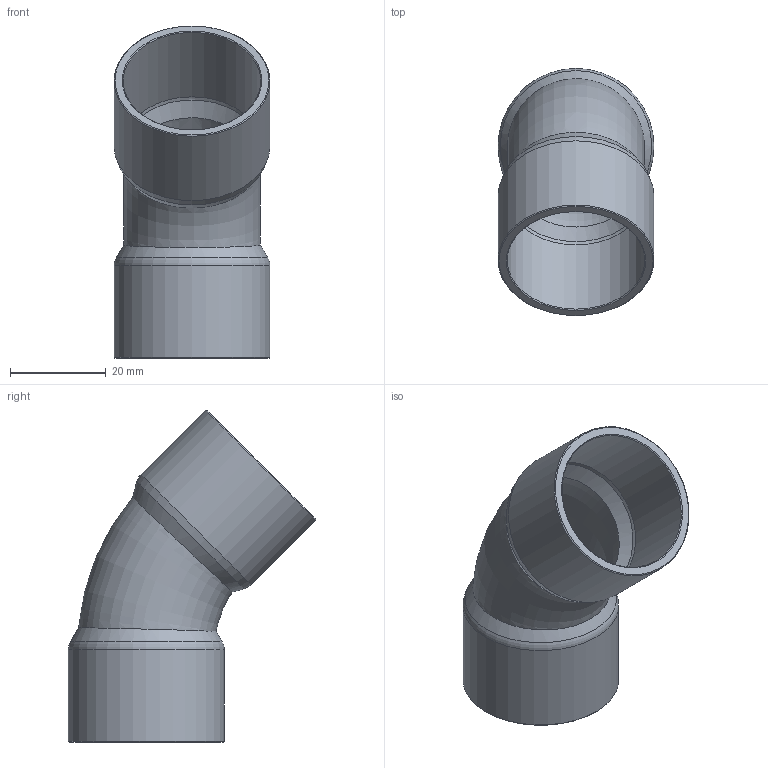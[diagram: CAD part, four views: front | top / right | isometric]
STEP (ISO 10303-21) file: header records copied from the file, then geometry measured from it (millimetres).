
FILE_DESCRIPTION((''),'2;1');
FILE_NAME('G:\SANHA-Ternat\Technik\Management\Bouwmaten + markeringen\z-maattekeningen 3D\29000s\29041118_3d.stp','2017-07-26T11:34:43',('vdvijverd'),(''),'Autodesk Inventor 2009','Autodesk Inventor 2009','');
FILE_SCHEMA(('AUTOMOTIVE_DESIGN { 1 0 10303 214 1 1 1 1 }'));
Length unit declared in the file: millimetre
Products named in the file (1): 29041118_3d
Bounding box: 32.52 x 51.6 x 69.24 mm (x, y, z)
Volume: 11736.2 mm3; surface area: 12681.9 mm2
Topology: 1 solids, 1 shells, 20 faces, 38 edges, 20 vertices
Faces by surface type: bspline 8, cone 6, torus 3, cylinder 2, plane 1
Full cylindrical faces by diameter (mm): 28.725 x1, 32.525 x1
Entity records: 810 total; most frequent: CARTESIAN_POINT 480, DIRECTION 58, ORIENTED_EDGE 40, EDGE_LOOP 40, AXIS2_PLACEMENT_3D 29, VERTEX_POINT 20, EDGE_CURVE 20, FACE_OUTER_BOUND 20
